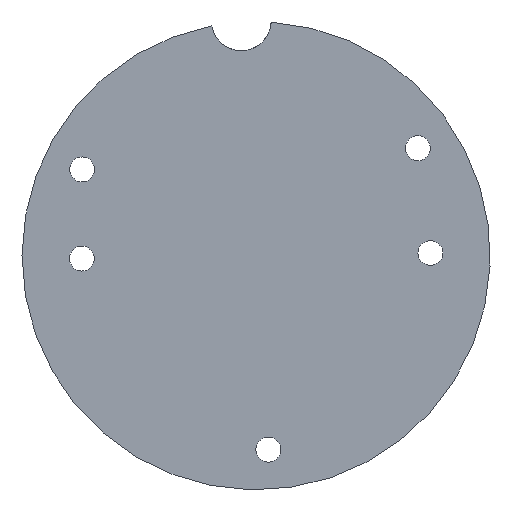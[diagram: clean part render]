
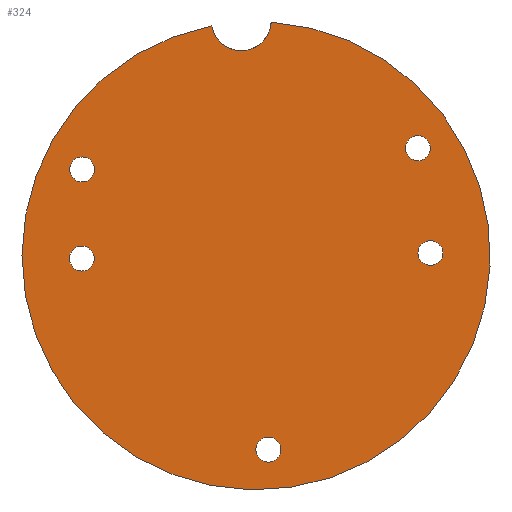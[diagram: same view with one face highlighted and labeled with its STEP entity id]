
A CAD part, front view. The second image highlights one B-rep face of the part: STEP entity #324.
In plain terms, the highlighted planar face has unit normal (0, -1, 0).
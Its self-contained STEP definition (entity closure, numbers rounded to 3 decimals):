
#10 = CARTESIAN_POINT ( 'NONE',  ( -4.446, 0., 23.076 ) ) ;
#48 = DIRECTION ( 'NONE',  ( 0., 0., 1. ) ) ;
#87 = CARTESIAN_POINT ( 'NONE',  ( -17.498, 0., -0.279 ) ) ;
#108 = EDGE_LOOP ( 'NONE', ( #800 ) ) ;
#148 = CARTESIAN_POINT ( 'NONE',  ( 17.498, 0., -0.971 ) ) ;
#163 = ORIENTED_EDGE ( 'NONE', *, *, #819, .F. ) ;
#265 = VERTEX_POINT ( 'NONE', #148 ) ;
#285 = DIRECTION ( 'NONE',  ( 0., 0., -1. ) ) ;
#317 = DIRECTION ( 'NONE',  ( 0., -1., 0. ) ) ;
#318 = EDGE_CURVE ( 'NONE', #1691, #1177, #1584, .T. ) ;
#324 = ADVANCED_FACE ( 'NONE', ( #492, #2042, #1978, #1469, #951, #426 ), #1405, .F. ) ;
#426 = FACE_OUTER_BOUND ( 'NONE', #1441, .T. ) ;
#454 = CARTESIAN_POINT ( 'NONE',  ( -1.489, 0., 23.582 ) ) ;
#492 = FACE_BOUND ( 'NONE', #2388, .T. ) ;
#546 = AXIS2_PLACEMENT_3D ( 'NONE', #1994, #830, #2198 ) ;
#563 = CARTESIAN_POINT ( 'NONE',  ( -17.498, 0., -1.529 ) ) ;
#612 = AXIS2_PLACEMENT_3D ( 'NONE', #826, #1220, #48 ) ;
#617 = AXIS2_PLACEMENT_3D ( 'NONE', #87, #1455, #285 ) ;
#646 = DIRECTION ( 'NONE',  ( 0., -1., 0. ) ) ;
#650 = DIRECTION ( 'NONE',  ( 0., 0., 1. ) ) ;
#757 = VERTEX_POINT ( 'NONE', #563 ) ;
#774 = EDGE_CURVE ( 'NONE', #1306, #1306, #1307, .T. ) ;
#777 = ORIENTED_EDGE ( 'NONE', *, *, #1554, .F. ) ;
#800 = ORIENTED_EDGE ( 'NONE', *, *, #1733, .F. ) ;
#808 = AXIS2_PLACEMENT_3D ( 'NONE', #1810, #646, #2004 ) ;
#815 = CARTESIAN_POINT ( 'NONE',  ( -17.468, 0., 8.667 ) ) ;
#817 = AXIS2_PLACEMENT_3D ( 'NONE', #454, #1816, #650 ) ;
#819 = EDGE_CURVE ( 'NONE', #265, #265, #1823, .T. ) ;
#826 = CARTESIAN_POINT ( 'NONE',  ( 0., 0., 0. ) ) ;
#830 = DIRECTION ( 'NONE',  ( 0., -1., 0. ) ) ;
#842 = VERTEX_POINT ( 'NONE', #1366 ) ;
#898 = AXIS2_PLACEMENT_3D ( 'NONE', #1487, #317, #1682 ) ;
#951 = FACE_BOUND ( 'NONE', #1751, .T. ) ;
#1007 = DIRECTION ( 'NONE',  ( 0., 0., -1. ) ) ;
#1023 = DIRECTION ( 'NONE',  ( 0., 1., 0. ) ) ;
#1089 = ORIENTED_EDGE ( 'NONE', *, *, #2510, .F. ) ;
#1177 = VERTEX_POINT ( 'NONE', #10 ) ;
#1220 = DIRECTION ( 'NONE',  ( 0., 1., 0. ) ) ;
#1306 = VERTEX_POINT ( 'NONE', #2475 ) ;
#1307 = CIRCLE ( 'NONE', #546, 1.25 ) ;
#1323 = ORIENTED_EDGE ( 'NONE', *, *, #774, .F. ) ;
#1357 = ORIENTED_EDGE ( 'NONE', *, *, #2328, .T. ) ;
#1366 = CARTESIAN_POINT ( 'NONE',  ( 1.229, 0., -20.711 ) ) ;
#1405 = PLANE ( 'NONE',  #612 ) ;
#1441 = EDGE_LOOP ( 'NONE', ( #1357, #2050 ) ) ;
#1455 = DIRECTION ( 'NONE',  ( 0., -1., 0. ) ) ;
#1469 = FACE_BOUND ( 'NONE', #1474, .T. ) ;
#1474 = EDGE_LOOP ( 'NONE', ( #1323 ) ) ;
#1487 = CARTESIAN_POINT ( 'NONE',  ( 1.229, 0., -19.461 ) ) ;
#1554 = EDGE_CURVE ( 'NONE', #2360, #2360, #2419, .T. ) ;
#1584 = CIRCLE ( 'NONE', #2349, 23.5 ) ;
#1682 = DIRECTION ( 'NONE',  ( 0., 0., -1. ) ) ;
#1691 = VERTEX_POINT ( 'NONE', #2398 ) ;
#1733 = EDGE_CURVE ( 'NONE', #757, #757, #1993, .T. ) ;
#1751 = EDGE_LOOP ( 'NONE', ( #777 ) ) ;
#1791 = CIRCLE ( 'NONE', #898, 1.25 ) ;
#1810 = CARTESIAN_POINT ( 'NONE',  ( 17.498, 0., 0.279 ) ) ;
#1816 = DIRECTION ( 'NONE',  ( 0., 1., 0. ) ) ;
#1823 = CIRCLE ( 'NONE', #808, 1.25 ) ;
#1978 = FACE_BOUND ( 'NONE', #2147, .T. ) ;
#1993 = CIRCLE ( 'NONE', #617, 1.25 ) ;
#1994 = CARTESIAN_POINT ( 'NONE',  ( 16.24, 0., 10.795 ) ) ;
#2004 = DIRECTION ( 'NONE',  ( 0., 0., -1. ) ) ;
#2042 = FACE_BOUND ( 'NONE', #108, .T. ) ;
#2050 = ORIENTED_EDGE ( 'NONE', *, *, #318, .F. ) ;
#2147 = EDGE_LOOP ( 'NONE', ( #1089 ) ) ;
#2160 = CIRCLE ( 'NONE', #817, 3. ) ;
#2177 = DIRECTION ( 'NONE',  ( 0., -1., 0. ) ) ;
#2193 = CARTESIAN_POINT ( 'NONE',  ( 0., 0., 0. ) ) ;
#2198 = DIRECTION ( 'NONE',  ( 0., 0., -1. ) ) ;
#2306 = CARTESIAN_POINT ( 'NONE',  ( -17.468, 0., 7.417 ) ) ;
#2308 = AXIS2_PLACEMENT_3D ( 'NONE', #815, #2177, #1007 ) ;
#2328 = EDGE_CURVE ( 'NONE', #1691, #1177, #2160, .T. ) ;
#2349 = AXIS2_PLACEMENT_3D ( 'NONE', #2193, #1023, #2376 ) ;
#2360 = VERTEX_POINT ( 'NONE', #2306 ) ;
#2376 = DIRECTION ( 'NONE',  ( 0., 0., 1. ) ) ;
#2388 = EDGE_LOOP ( 'NONE', ( #163 ) ) ;
#2398 = CARTESIAN_POINT ( 'NONE',  ( 1.508, 0., 23.452 ) ) ;
#2419 = CIRCLE ( 'NONE', #2308, 1.25 ) ;
#2475 = CARTESIAN_POINT ( 'NONE',  ( 16.24, 0., 9.545 ) ) ;
#2510 = EDGE_CURVE ( 'NONE', #842, #842, #1791, .T. ) ;
